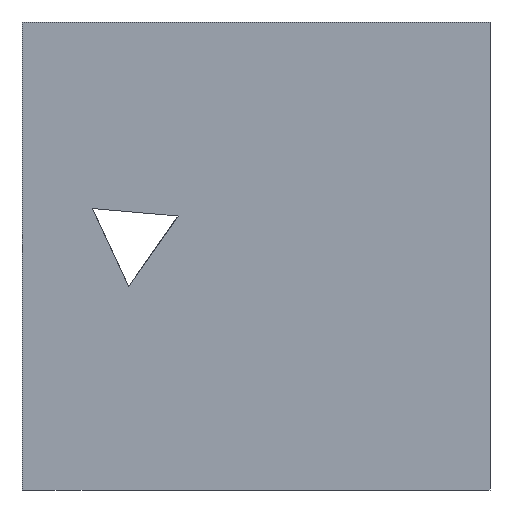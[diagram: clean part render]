
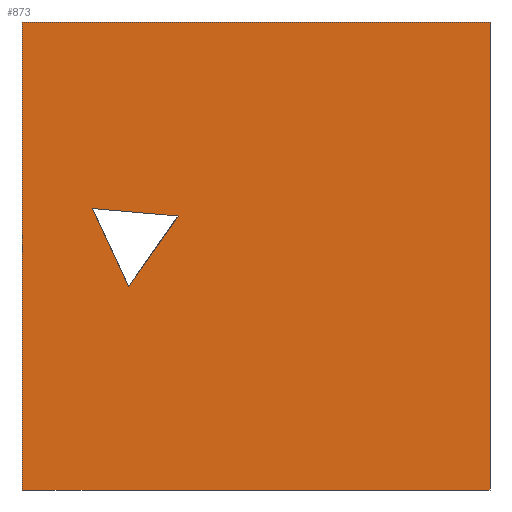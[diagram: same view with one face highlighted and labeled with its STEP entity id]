
A CAD part, left-side view. The second image highlights one B-rep face of the part: STEP entity #873.
In plain terms, the highlighted planar face has unit normal (-1, 0, 0).
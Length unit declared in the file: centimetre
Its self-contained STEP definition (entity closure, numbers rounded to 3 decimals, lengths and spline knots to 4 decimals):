
#13 = CARTESIAN_POINT ( 'NONE',  ( 0., 1000., 1000. ) ) ;
#17 = ORIENTED_EDGE ( 'NONE', *, *, #2571, .F. ) ;
#29 = EDGE_CURVE ( 'NONE', #407, #2076, #626, .T. ) ;
#58 = VECTOR ( 'NONE', #1282, 100. ) ;
#131 = LINE ( 'NONE', #1435, #1455 ) ;
#193 = VECTOR ( 'NONE', #1908, 100. ) ;
#208 = DIRECTION ( 'NONE',  ( 0., -1., 0. ) ) ;
#214 = LINE ( 'NONE', #13, #58 ) ;
#231 = LINE ( 'NONE', #2101, #2281 ) ;
#277 = DIRECTION ( 'NONE',  ( 0., 0., -1. ) ) ;
#390 = EDGE_CURVE ( 'NONE', #793, #407, #1147, .T. ) ;
#397 = CARTESIAN_POINT ( 'NONE',  ( 0., 1000., 1000. ) ) ;
#407 = VERTEX_POINT ( 'NONE', #2223 ) ;
#421 = LINE ( 'NONE', #397, #1727 ) ;
#453 = DIRECTION ( 'NONE',  ( 0., -0.573, 0.819 ) ) ;
#456 = PLANE ( 'NONE',  #984 ) ;
#502 = ORIENTED_EDGE ( 'NONE', *, *, #29, .F. ) ;
#582 = VERTEX_POINT ( 'NONE', #1677 ) ;
#595 = EDGE_CURVE ( 'NONE', #582, #2525, #214, .T. ) ;
#626 = LINE ( 'NONE', #1472, #854 ) ;
#663 = EDGE_LOOP ( 'NONE', ( #1480, #1695, #17, #2548 ) ) ;
#712 = FACE_BOUND ( 'NONE', #2031, .T. ) ;
#793 = VERTEX_POINT ( 'NONE', #923 ) ;
#854 = VECTOR ( 'NONE', #2039, 100. ) ;
#873 = ADVANCED_FACE ( 'NONE', ( #712, #2167 ), #456, .F. ) ;
#923 = CARTESIAN_POINT ( 'NONE',  ( 0., 772.0086, 434.5806 ) ) ;
#941 = EDGE_CURVE ( 'NONE', #2076, #793, #2328, .T. ) ;
#948 = ORIENTED_EDGE ( 'NONE', *, *, #941, .F. ) ;
#972 = DIRECTION ( 'NONE',  ( 0., 0., -1. ) ) ;
#984 = AXIS2_PLACEMENT_3D ( 'NONE', #1071, #1515, #277 ) ;
#1042 = VERTEX_POINT ( 'NONE', #2637 ) ;
#1059 = CARTESIAN_POINT ( 'NONE',  ( 0., 1000., 0. ) ) ;
#1071 = CARTESIAN_POINT ( 'NONE',  ( 0., 1000., 1000. ) ) ;
#1147 = LINE ( 'NONE', #1529, #1864 ) ;
#1282 = DIRECTION ( 'NONE',  ( 0., 0., -1. ) ) ;
#1300 = CARTESIAN_POINT ( 'NONE',  ( 0., 849.8487, 601.448 ) ) ;
#1329 = EDGE_CURVE ( 'NONE', #1042, #2617, #131, .T. ) ;
#1435 = CARTESIAN_POINT ( 'NONE',  ( 0., 0., 1000. ) ) ;
#1455 = VECTOR ( 'NONE', #972, 100. ) ;
#1472 = CARTESIAN_POINT ( 'NONE',  ( 0., 666.4172, 585.4258 ) ) ;
#1480 = ORIENTED_EDGE ( 'NONE', *, *, #2020, .T. ) ;
#1502 = CARTESIAN_POINT ( 'NONE',  ( 0., 0., 0. ) ) ;
#1515 = DIRECTION ( 'NONE',  ( 1., 0., 0. ) ) ;
#1529 = CARTESIAN_POINT ( 'NONE',  ( 0., 772.0086, 434.5806 ) ) ;
#1677 = CARTESIAN_POINT ( 'NONE',  ( 0., 1000., 1000. ) ) ;
#1695 = ORIENTED_EDGE ( 'NONE', *, *, #1329, .F. ) ;
#1713 = DIRECTION ( 'NONE',  ( 0., -1., 0. ) ) ;
#1727 = VECTOR ( 'NONE', #1713, 100. ) ;
#1783 = CARTESIAN_POINT ( 'NONE',  ( 0., 849.8487, 601.448 ) ) ;
#1864 = VECTOR ( 'NONE', #453, 100. ) ;
#1908 = DIRECTION ( 'NONE',  ( 0., -0.423, -0.906 ) ) ;
#2020 = EDGE_CURVE ( 'NONE', #2525, #2617, #231, .T. ) ;
#2031 = EDGE_LOOP ( 'NONE', ( #948, #502, #2649 ) ) ;
#2039 = DIRECTION ( 'NONE',  ( 0., 0.996, 0.087 ) ) ;
#2076 = VERTEX_POINT ( 'NONE', #1783 ) ;
#2101 = CARTESIAN_POINT ( 'NONE',  ( 0., 1000., 0. ) ) ;
#2167 = FACE_OUTER_BOUND ( 'NONE', #663, .T. ) ;
#2223 = CARTESIAN_POINT ( 'NONE',  ( 0., 666.4172, 585.4258 ) ) ;
#2281 = VECTOR ( 'NONE', #208, 100. ) ;
#2328 = LINE ( 'NONE', #1300, #193 ) ;
#2525 = VERTEX_POINT ( 'NONE', #1059 ) ;
#2548 = ORIENTED_EDGE ( 'NONE', *, *, #595, .T. ) ;
#2571 = EDGE_CURVE ( 'NONE', #582, #1042, #421, .T. ) ;
#2617 = VERTEX_POINT ( 'NONE', #1502 ) ;
#2637 = CARTESIAN_POINT ( 'NONE',  ( 0., 0., 1000. ) ) ;
#2649 = ORIENTED_EDGE ( 'NONE', *, *, #390, .F. ) ;
